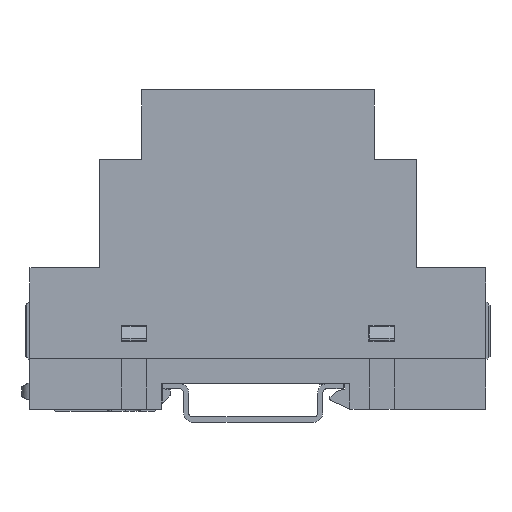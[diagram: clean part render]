
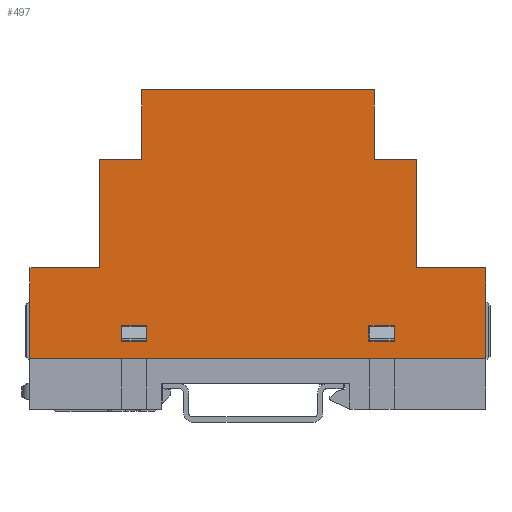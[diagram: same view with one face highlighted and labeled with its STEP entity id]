
A CAD part, left-side view. The second image highlights one B-rep face of the part: STEP entity #497.
In plain terms, the highlighted planar face has unit normal (-1, 0, 0).
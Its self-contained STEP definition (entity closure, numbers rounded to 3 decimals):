
#497=ADVANCED_FACE('',(#9065,#9067,#9069),#9071,.F.);
#9065=FACE_BOUND('',#9066,.T.);
#9066=EDGE_LOOP('',(#16199,#16200,#16201,#16202,#16203,#16204,#16205,#16206,#16207,
#16208,#16209,#16210));
#9067=FACE_BOUND('',#9068,.T.);
#9068=EDGE_LOOP('',(#16211,#16212,#16213,#16214));
#9069=FACE_BOUND('',#9070,.T.);
#9070=EDGE_LOOP('',(#16215,#16216,#16217,#16218));
#9071=PLANE('',#9072);
#9072=AXIS2_PLACEMENT_3D('',#9073,#9074,#9075);
#9073=CARTESIAN_POINT('',(-52.5,0.,0.));
#9074=DIRECTION('',(1.,0.,0.));
#9075=DIRECTION('',(0.,1.,0.));
#16199=ORIENTED_EDGE('',*,*,#21425,.T.);
#16200=ORIENTED_EDGE('',*,*,#21426,.F.);
#16201=ORIENTED_EDGE('',*,*,#21427,.F.);
#16202=ORIENTED_EDGE('',*,*,#21428,.F.);
#16203=ORIENTED_EDGE('',*,*,#21429,.F.);
#16204=ORIENTED_EDGE('',*,*,#21430,.F.);
#16205=ORIENTED_EDGE('',*,*,#21431,.T.);
#16206=ORIENTED_EDGE('',*,*,#21432,.F.);
#16207=ORIENTED_EDGE('',*,*,#21433,.F.);
#16208=ORIENTED_EDGE('',*,*,#21434,.F.);
#16209=ORIENTED_EDGE('',*,*,#21435,.F.);
#16210=ORIENTED_EDGE('',*,*,#21436,.F.);
#16211=ORIENTED_EDGE('',*,*,#21437,.T.);
#16212=ORIENTED_EDGE('',*,*,#21438,.T.);
#16213=ORIENTED_EDGE('',*,*,#21439,.T.);
#16214=ORIENTED_EDGE('',*,*,#21440,.T.);
#16215=ORIENTED_EDGE('',*,*,#21441,.T.);
#16216=ORIENTED_EDGE('',*,*,#21442,.T.);
#16217=ORIENTED_EDGE('',*,*,#21443,.T.);
#16218=ORIENTED_EDGE('',*,*,#21444,.T.);
#21425=EDGE_CURVE('',#24036,#24037,#24038,.T.);
#21426=EDGE_CURVE('',#24039,#24037,#24040,.T.);
#21427=EDGE_CURVE('',#24041,#24039,#24042,.T.);
#21428=EDGE_CURVE('',#24043,#24041,#24044,.T.);
#21429=EDGE_CURVE('',#24045,#24043,#24046,.T.);
#21430=EDGE_CURVE('',#24047,#24045,#24048,.T.);
#21431=EDGE_CURVE('',#24047,#24049,#24050,.T.);
#21432=EDGE_CURVE('',#24051,#24049,#24052,.T.);
#21433=EDGE_CURVE('',#24053,#24051,#24054,.T.);
#21434=EDGE_CURVE('',#24055,#24053,#24056,.T.);
#21435=EDGE_CURVE('',#24057,#24055,#24058,.T.);
#21436=EDGE_CURVE('',#24036,#24057,#24059,.T.);
#21437=EDGE_CURVE('',#24060,#24061,#24062,.T.);
#21438=EDGE_CURVE('',#24061,#24063,#24064,.T.);
#21439=EDGE_CURVE('',#24063,#24065,#24066,.T.);
#21440=EDGE_CURVE('',#24065,#24060,#24067,.T.);
#21441=EDGE_CURVE('',#24068,#24069,#24070,.T.);
#21442=EDGE_CURVE('',#24069,#24071,#24072,.T.);
#21443=EDGE_CURVE('',#24071,#24073,#24074,.T.);
#21444=EDGE_CURVE('',#24073,#24068,#24075,.T.);
#24036=VERTEX_POINT('',#28389);
#24037=VERTEX_POINT('',#28390);
#24038=LINE('',#28391,#28392);
#24039=VERTEX_POINT('',#28394);
#24040=LINE('',#28395,#28396);
#24041=VERTEX_POINT('',#28398);
#24042=LINE('',#28399,#28400);
#24043=VERTEX_POINT('',#28402);
#24044=LINE('',#28403,#28404);
#24045=VERTEX_POINT('',#28406);
#24046=LINE('',#28407,#28408);
#24047=VERTEX_POINT('',#28410);
#24048=LINE('',#28411,#28412);
#24049=VERTEX_POINT('',#28414);
#24050=LINE('',#28415,#28416);
#24051=VERTEX_POINT('',#28418);
#24052=LINE('',#28419,#28420);
#24053=VERTEX_POINT('',#28422);
#24054=LINE('',#28423,#28424);
#24055=VERTEX_POINT('',#28426);
#24056=LINE('',#28427,#28428);
#24057=VERTEX_POINT('',#28430);
#24058=LINE('',#28431,#28432);
#24059=LINE('',#28434,#28435);
#24060=VERTEX_POINT('',#28437);
#24061=VERTEX_POINT('',#28438);
#24062=LINE('',#28439,#28440);
#24063=VERTEX_POINT('',#28442);
#24064=LINE('',#28443,#28444);
#24065=VERTEX_POINT('',#28446);
#24066=LINE('',#28447,#28448);
#24067=LINE('',#28450,#28451);
#24068=VERTEX_POINT('',#28453);
#24069=VERTEX_POINT('',#28454);
#24070=LINE('',#28455,#28456);
#24071=VERTEX_POINT('',#28458);
#24072=LINE('',#28459,#28460);
#24073=VERTEX_POINT('',#28462);
#24074=LINE('',#28463,#28464);
#24075=LINE('',#28466,#28467);
#28389=CARTESIAN_POINT('',(-52.5,44.175,0.));
#28390=CARTESIAN_POINT('',(-52.5,-44.175,0.));
#28391=CARTESIAN_POINT('',(-52.5,44.175,0.));
#28392=VECTOR('',#28393,1.);
#28393=DIRECTION('',(0.,-1.,0.));
#28394=CARTESIAN_POINT('',(-52.5,-44.175,17.6));
#28395=CARTESIAN_POINT('',(-52.5,-44.175,17.6));
#28396=VECTOR('',#28397,1.);
#28397=DIRECTION('',(0.,0.,-1.));
#28398=CARTESIAN_POINT('',(-52.5,-30.7,17.6));
#28399=CARTESIAN_POINT('',(-52.5,-30.7,17.6));
#28400=VECTOR('',#28401,1.);
#28401=DIRECTION('',(0.,-1.,0.));
#28402=CARTESIAN_POINT('',(-52.5,-30.7,38.6));
#28403=CARTESIAN_POINT('',(-52.5,-30.7,38.6));
#28404=VECTOR('',#28405,1.);
#28405=DIRECTION('',(0.,0.,-1.));
#28406=CARTESIAN_POINT('',(-52.5,-22.5,38.6));
#28407=CARTESIAN_POINT('',(-52.5,-22.5,38.6));
#28408=VECTOR('',#28409,1.);
#28409=DIRECTION('',(0.,-1.,0.));
#28410=CARTESIAN_POINT('',(-52.5,-22.5,52.1));
#28411=CARTESIAN_POINT('',(-52.5,-22.5,52.1));
#28412=VECTOR('',#28413,1.);
#28413=DIRECTION('',(0.,0.,-1.));
#28414=CARTESIAN_POINT('',(-52.5,22.5,52.1));
#28415=CARTESIAN_POINT('',(-52.5,-22.5,52.1));
#28416=VECTOR('',#28417,1.);
#28417=DIRECTION('',(0.,1.,0.));
#28418=CARTESIAN_POINT('',(-52.5,22.5,38.6));
#28419=CARTESIAN_POINT('',(-52.5,22.5,38.6));
#28420=VECTOR('',#28421,1.);
#28421=DIRECTION('',(0.,0.,1.));
#28422=CARTESIAN_POINT('',(-52.5,30.7,38.6));
#28423=CARTESIAN_POINT('',(-52.5,30.7,38.6));
#28424=VECTOR('',#28425,1.);
#28425=DIRECTION('',(0.,-1.,0.));
#28426=CARTESIAN_POINT('',(-52.5,30.7,17.6));
#28427=CARTESIAN_POINT('',(-52.5,30.7,17.6));
#28428=VECTOR('',#28429,1.);
#28429=DIRECTION('',(0.,0.,1.));
#28430=CARTESIAN_POINT('',(-52.5,44.175,17.6));
#28431=CARTESIAN_POINT('',(-52.5,44.175,17.6));
#28432=VECTOR('',#28433,1.);
#28433=DIRECTION('',(0.,-1.,0.));
#28434=CARTESIAN_POINT('',(-52.5,44.175,0.));
#28435=VECTOR('',#28436,1.);
#28436=DIRECTION('',(0.,0.,1.));
#28437=CARTESIAN_POINT('',(-52.5,-21.5,6.5));
#28438=CARTESIAN_POINT('',(-52.5,-26.5,6.5));
#28439=CARTESIAN_POINT('',(-52.5,-21.5,6.5));
#28440=VECTOR('',#28441,1.);
#28441=DIRECTION('',(0.,-1.,0.));
#28442=CARTESIAN_POINT('',(-52.5,-26.5,3.4));
#28443=CARTESIAN_POINT('',(-52.5,-26.5,6.5));
#28444=VECTOR('',#28445,1.);
#28445=DIRECTION('',(0.,0.,-1.));
#28446=CARTESIAN_POINT('',(-52.5,-21.5,3.4));
#28447=CARTESIAN_POINT('',(-52.5,-26.5,3.4));
#28448=VECTOR('',#28449,1.);
#28449=DIRECTION('',(0.,1.,0.));
#28450=CARTESIAN_POINT('',(-52.5,-21.5,3.4));
#28451=VECTOR('',#28452,1.);
#28452=DIRECTION('',(0.,0.,1.));
#28453=CARTESIAN_POINT('',(-52.5,26.5,6.5));
#28454=CARTESIAN_POINT('',(-52.5,21.5,6.5));
#28455=CARTESIAN_POINT('',(-52.5,26.5,6.5));
#28456=VECTOR('',#28457,1.);
#28457=DIRECTION('',(0.,-1.,0.));
#28458=CARTESIAN_POINT('',(-52.5,21.5,3.4));
#28459=CARTESIAN_POINT('',(-52.5,21.5,6.5));
#28460=VECTOR('',#28461,1.);
#28461=DIRECTION('',(0.,0.,-1.));
#28462=CARTESIAN_POINT('',(-52.5,26.5,3.4));
#28463=CARTESIAN_POINT('',(-52.5,21.5,3.4));
#28464=VECTOR('',#28465,1.);
#28465=DIRECTION('',(0.,1.,0.));
#28466=CARTESIAN_POINT('',(-52.5,26.5,3.4));
#28467=VECTOR('',#28468,1.);
#28468=DIRECTION('',(0.,0.,1.));
